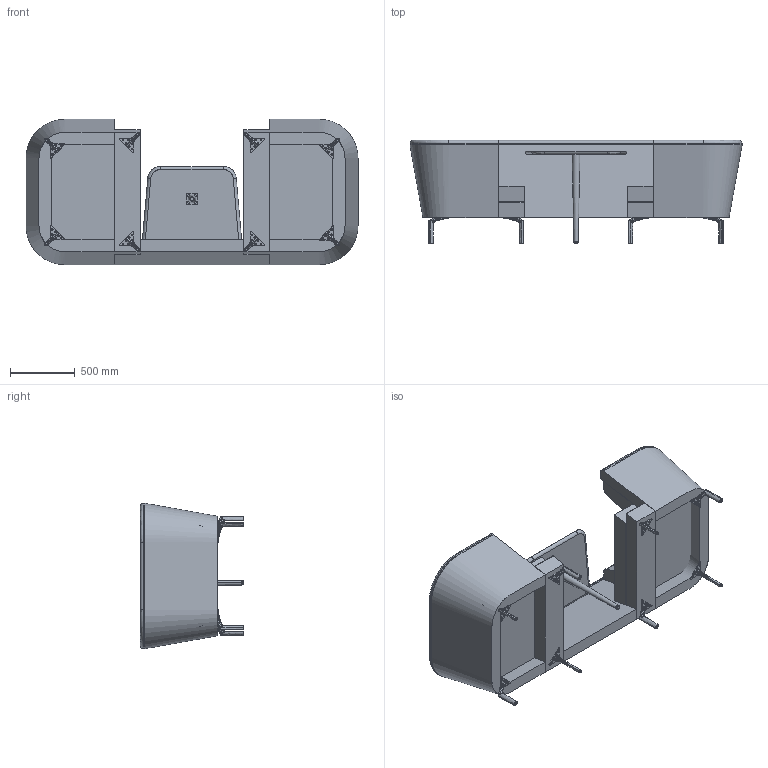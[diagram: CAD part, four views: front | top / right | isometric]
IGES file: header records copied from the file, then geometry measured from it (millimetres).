
Start section: SolidWorks IGES file using analytic representation for surfaces
Global section: file name: P:\3D CAD BLOCKS\ENTENTE\ENT4L - TWIN BOOTH LOW BACK\ENT4L - TWIN - BOOTH - LOW BACK -.IGS; native system: SolidWorks 2012; preprocessor: SolidWorks 2012; author: adam; date: 140710.115232; units: millimetre
Bounding box: 2560 x 797.5 x 1120 mm (x, y, z)
Surface area: 16107582.8 mm2 (no closed solid volume)
Topology: 0 solids, 0 shells, 1222 faces, 15998 edges, 15990 vertices
Faces by surface type: bspline 682, revolution 540
